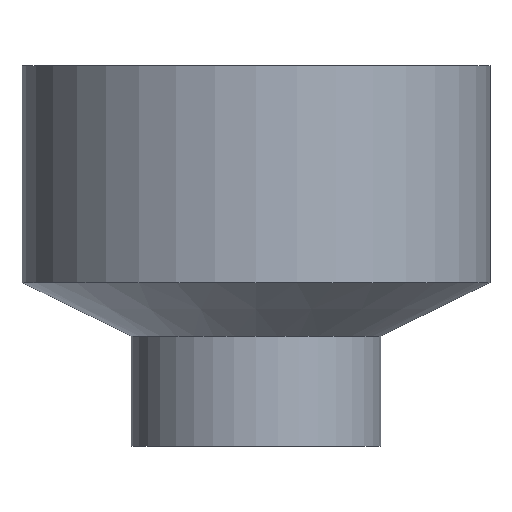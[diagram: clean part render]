
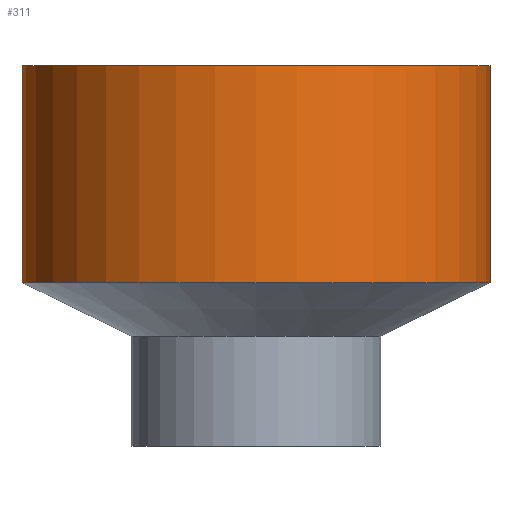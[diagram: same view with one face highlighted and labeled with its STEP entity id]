
A CAD part, front view. The second image highlights one B-rep face of the part: STEP entity #311.
In plain terms, the highlighted cylindrical face has radius 32 mm (diameter 64 mm), a partial arc.
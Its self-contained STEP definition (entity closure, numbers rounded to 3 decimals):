
#19 = CARTESIAN_POINT ( 'NONE',  ( 0., 0., 52.1 ) ) ;
#22 = CIRCLE ( 'NONE', #524, 32. ) ;
#24 = VECTOR ( 'NONE', #317, 1000. ) ;
#34 = CARTESIAN_POINT ( 'NONE',  ( 0., 0., 52.1 ) ) ;
#55 = DIRECTION ( 'NONE',  ( 0., 0., 1. ) ) ;
#64 = VERTEX_POINT ( 'NONE', #418 ) ;
#66 = CARTESIAN_POINT ( 'NONE',  ( -32., 0., 52.1 ) ) ;
#77 = DIRECTION ( 'NONE',  ( 0., 0., -1. ) ) ;
#82 = AXIS2_PLACEMENT_3D ( 'NONE', #407, #77, #512 ) ;
#90 = DIRECTION ( 'NONE',  ( 1., 0., 0. ) ) ;
#96 = ORIENTED_EDGE ( 'NONE', *, *, #246, .F. ) ;
#109 = EDGE_CURVE ( 'NONE', #182, #64, #22, .T. ) ;
#111 = DIRECTION ( 'NONE',  ( 0., 0., -1. ) ) ;
#125 = CIRCLE ( 'NONE', #82, 32. ) ;
#145 = AXIS2_PLACEMENT_3D ( 'NONE', #34, #160, #355 ) ;
#151 = LINE ( 'NONE', #66, #393 ) ;
#160 = DIRECTION ( 'NONE',  ( 0., 0., -1. ) ) ;
#182 = VERTEX_POINT ( 'NONE', #300 ) ;
#218 = EDGE_CURVE ( 'NONE', #182, #498, #151, .T. ) ;
#237 = VERTEX_POINT ( 'NONE', #325 ) ;
#246 = EDGE_CURVE ( 'NONE', #64, #237, #277, .T. ) ;
#268 = EDGE_CURVE ( 'NONE', #237, #498, #125, .T. ) ;
#277 = LINE ( 'NONE', #397, #24 ) ;
#290 = ORIENTED_EDGE ( 'NONE', *, *, #218, .T. ) ;
#300 = CARTESIAN_POINT ( 'NONE',  ( -32., 0., 52.1 ) ) ;
#311 = ADVANCED_FACE ( 'NONE', ( #474 ), #359, .T. ) ;
#317 = DIRECTION ( 'NONE',  ( 0., 0., -1. ) ) ;
#325 = CARTESIAN_POINT ( 'NONE',  ( 32., 0., 22.4 ) ) ;
#336 = CARTESIAN_POINT ( 'NONE',  ( -32., 0., 22.4 ) ) ;
#355 = DIRECTION ( 'NONE',  ( -1., 0., 0. ) ) ;
#359 = CYLINDRICAL_SURFACE ( 'NONE', #145, 32. ) ;
#393 = VECTOR ( 'NONE', #111, 1000. ) ;
#397 = CARTESIAN_POINT ( 'NONE',  ( 32., 0., 52.1 ) ) ;
#407 = CARTESIAN_POINT ( 'NONE',  ( 0., 0., 22.4 ) ) ;
#418 = CARTESIAN_POINT ( 'NONE',  ( 32., 0., 52.1 ) ) ;
#426 = ORIENTED_EDGE ( 'NONE', *, *, #109, .F. ) ;
#474 = FACE_OUTER_BOUND ( 'NONE', #517, .T. ) ;
#476 = ORIENTED_EDGE ( 'NONE', *, *, #268, .F. ) ;
#498 = VERTEX_POINT ( 'NONE', #336 ) ;
#512 = DIRECTION ( 'NONE',  ( -1., 0., 0. ) ) ;
#517 = EDGE_LOOP ( 'NONE', ( #96, #426, #290, #476 ) ) ;
#524 = AXIS2_PLACEMENT_3D ( 'NONE', #19, #55, #90 ) ;
